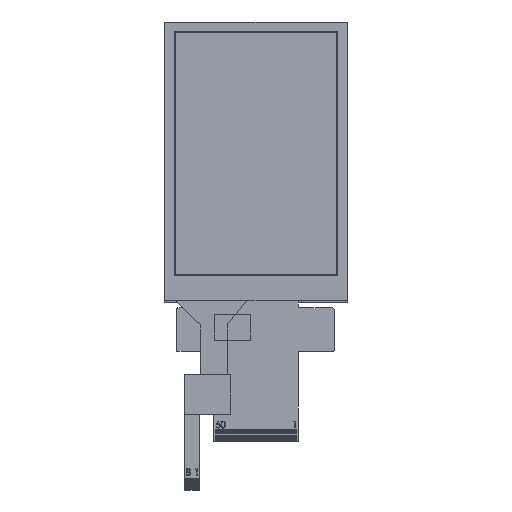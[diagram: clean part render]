
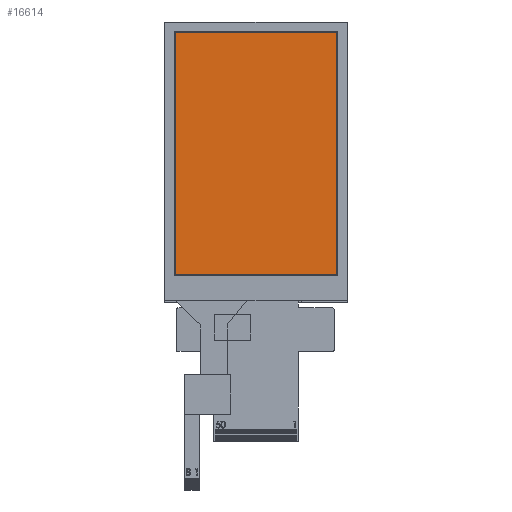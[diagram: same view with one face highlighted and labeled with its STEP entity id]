
A CAD part, top view. The second image highlights one B-rep face of the part: STEP entity #16614.
In plain terms, the highlighted planar face has unit normal (0, 0, 1).
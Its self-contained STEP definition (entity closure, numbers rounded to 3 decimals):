
#277 = ORIENTED_EDGE ( 'NONE', *, *, #7209, .F. ) ;
#1328 = LINE ( 'NONE', #14825, #10828 ) ;
#4526 = CARTESIAN_POINT ( 'NONE',  ( 3.27, -3.26, 4.25 ) ) ;
#5535 = ORIENTED_EDGE ( 'NONE', *, *, #14181, .F. ) ;
#6045 = CARTESIAN_POINT ( 'NONE',  ( 52.23, -76.7, 4.25 ) ) ;
#6722 = CARTESIAN_POINT ( 'NONE',  ( 3.27, 0., 4.25 ) ) ;
#7116 = VERTEX_POINT ( 'NONE', #4526 ) ;
#7191 = VECTOR ( 'NONE', #9698, 1000. ) ;
#7209 = EDGE_CURVE ( 'NONE', #15430, #7116, #9771, .T. ) ;
#8602 = DIRECTION ( 'NONE',  ( 1., 0., 0. ) ) ;
#8655 = ORIENTED_EDGE ( 'NONE', *, *, #18454, .F. ) ;
#8825 = CARTESIAN_POINT ( 'NONE',  ( 52.23, -3.26, 4.25 ) ) ;
#8918 = DIRECTION ( 'NONE',  ( 0., 0., 1. ) ) ;
#9410 = EDGE_LOOP ( 'NONE', ( #277, #13628, #8655, #5535 ) ) ;
#9698 = DIRECTION ( 'NONE',  ( -1., 0., 0. ) ) ;
#9771 = LINE ( 'NONE', #6722, #18660 ) ;
#10135 = VERTEX_POINT ( 'NONE', #8825 ) ;
#10828 = VECTOR ( 'NONE', #8602, 1000. ) ;
#11422 = VECTOR ( 'NONE', #16745, 1000. ) ;
#11795 = CARTESIAN_POINT ( 'NONE',  ( 52.23, 0., 4.25 ) ) ;
#13628 = ORIENTED_EDGE ( 'NONE', *, *, #21391, .F. ) ;
#13747 = FACE_OUTER_BOUND ( 'NONE', #9410, .T. ) ;
#13854 = PLANE ( 'NONE',  #17633 ) ;
#13957 = CARTESIAN_POINT ( 'NONE',  ( 0., 0., 4.25 ) ) ;
#14181 = EDGE_CURVE ( 'NONE', #7116, #10135, #1328, .T. ) ;
#14825 = CARTESIAN_POINT ( 'NONE',  ( 0., -3.26, 4.25 ) ) ;
#15430 = VERTEX_POINT ( 'NONE', #16896 ) ;
#16477 = CARTESIAN_POINT ( 'NONE',  ( 0., -76.7, 4.25 ) ) ;
#16614 = ADVANCED_FACE ( 'NONE', ( #13747 ), #13854, .T. ) ;
#16745 = DIRECTION ( 'NONE',  ( 0., -1., 0. ) ) ;
#16877 = DIRECTION ( 'NONE',  ( 1., 0., 0. ) ) ;
#16896 = CARTESIAN_POINT ( 'NONE',  ( 3.27, -76.7, 4.25 ) ) ;
#17633 = AXIS2_PLACEMENT_3D ( 'NONE', #13957, #8918, #16877 ) ;
#18454 = EDGE_CURVE ( 'NONE', #10135, #20448, #21277, .T. ) ;
#18660 = VECTOR ( 'NONE', #19429, 1000. ) ;
#19429 = DIRECTION ( 'NONE',  ( 0., 1., 0. ) ) ;
#20448 = VERTEX_POINT ( 'NONE', #6045 ) ;
#21109 = LINE ( 'NONE', #16477, #7191 ) ;
#21277 = LINE ( 'NONE', #11795, #11422 ) ;
#21391 = EDGE_CURVE ( 'NONE', #20448, #15430, #21109, .T. ) ;
